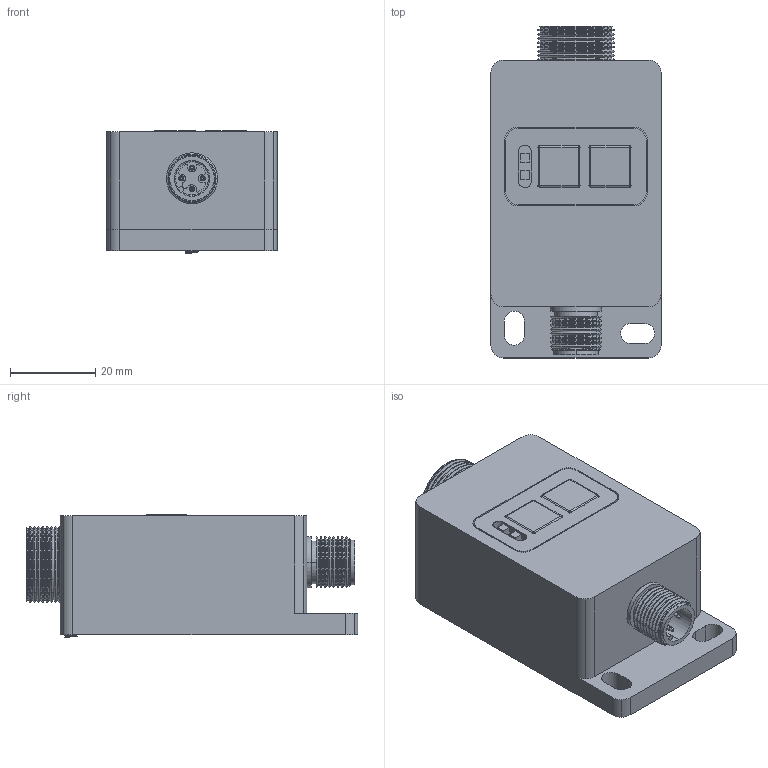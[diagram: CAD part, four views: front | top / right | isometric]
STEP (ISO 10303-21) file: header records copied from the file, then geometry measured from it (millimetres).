
FILE_DESCRIPTION(('FreeCAD Model'),'2;1');
FILE_NAME('Open CASCADE Shape Model','2024-06-10T10:34:51',( 'Thomas Reinhold'),('Eickmann Elektronik GmbH&.Co'), 'Open CASCADE STEP processor 7.6','FreeCAD','Unknown');
FILE_SCHEMA(('AUTOMOTIVE_DESIGN { 1 0 10303 214 1 1 1 1 }'));
Length unit declared in the file: millimetre
Products named in the file (12): Unnamed; 1; 1001; 1002; 1003; 1005; 1006; 1007; 2; 3; 4; 5
Assembly tree (17 placements, depth 3):
  Unnamed
    1
    1001
    1002
    1003
    1005
    1006
    1007
      1
      1001
      1002
      1003
      1005
      1006
    2
    3
    4
    5
Bounding box: 40 x 78 x 28.91 mm (x, y, z)
Surface area: 42561.8 mm2
Topology: 10 solids, 16 shells, 1332 faces, 3104 edges, 1816 vertices
Faces by surface type: cylinder 678, cone 374, plane 178, torus 46, bspline 24, revolution 16, sphere 16
Entity records: 33890 total; most frequent: CARTESIAN_POINT 13260, DIRECTION 3668, ORIENTED_EDGE 3153, EDGE_CURVE 1584, AXIS2_PLACEMENT_3D 1482, VERTEX_POINT 936, CIRCLE 794, FACE_BOUND 738
